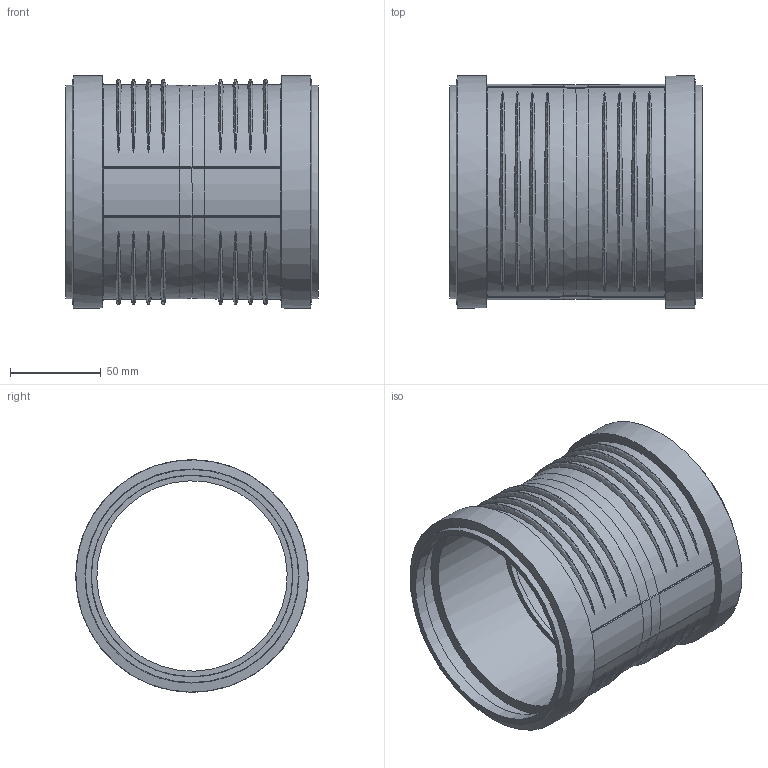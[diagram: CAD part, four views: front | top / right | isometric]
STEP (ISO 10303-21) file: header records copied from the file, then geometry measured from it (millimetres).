
FILE_DESCRIPTION(/* description */ (''),/* implementation_level */ '2;1');
FILE_NAME(/* name */ 'C:\Planerdaten\Export PLA\390.516.14.1\stp\390516.stp',/* time_stamp */ '2022-03-31T11:56:01+02:00',/* author */ ('JANAN'),/* organization */ (''),/* preprocessor_version */ 'ST-DEVELOPER v16.13',/* originating_system */ 'Autodesk Inventor 2018',/* authorisation */ '');
FILE_SCHEMA (('AUTOMOTIVE_DESIGN { 1 0 10303 214 3 1 1 }'));
Length unit declared in the file: millimetre
Products named in the file (1): tmp922F.tmp
Bounding box: 139 x 128.09 x 128.06 mm (x, y, z)
Volume: 215244.3 mm3; surface area: 125711.3 mm2
Topology: 1 solids, 1 shells, 111 faces, 236 edges, 145 vertices
Faces by surface type: bspline 90, cylinder 9, cone 8, plane 4
Full cylindrical faces by diameter (mm): 105 x1, 111 x2, 111.3 x2, 121.5 x2, 128.1 x2
Entity records: 12438 total; most frequent: CARTESIAN_POINT 10100, ORIENTED_EDGE 470, DIRECTION 374, EDGE_CURVE 235, AXIS2_PLACEMENT_3D 179, VERTEX_POINT 177, EDGE_LOOP 164, CIRCLE 121
